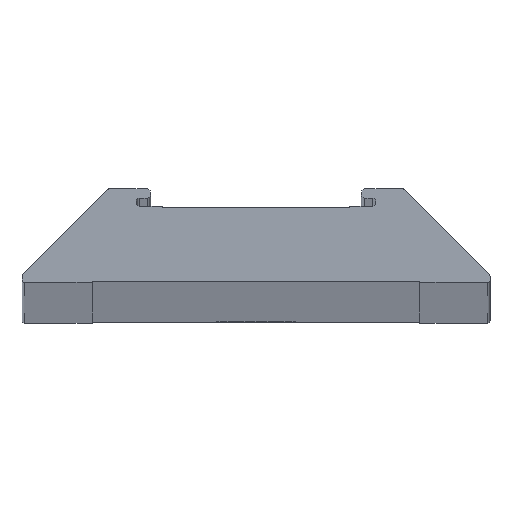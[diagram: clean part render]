
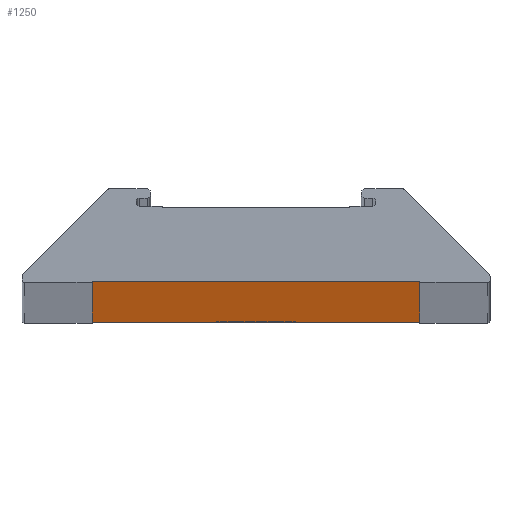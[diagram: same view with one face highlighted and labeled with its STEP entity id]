
A CAD part, top view. The second image highlights one B-rep face of the part: STEP entity #1250.
In plain terms, the highlighted planar face has unit normal (0, -1, 0).
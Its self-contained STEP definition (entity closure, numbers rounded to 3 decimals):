
#7 = EDGE_CURVE ( 'NONE', #847, #638, #110, .T. ) ;
#21 = CARTESIAN_POINT ( 'NONE',  ( 3., 0.05, 1000. ) ) ;
#30 = DIRECTION ( 'NONE',  ( 0., 1., 0. ) ) ;
#110 = LINE ( 'NONE', #170, #1263 ) ;
#170 = CARTESIAN_POINT ( 'NONE',  ( 17., 0.05, 1000. ) ) ;
#241 = FACE_BOUND ( 'NONE', #968, .T. ) ;
#324 = CARTESIAN_POINT ( 'NONE',  ( 3., 0.05, 1000. ) ) ;
#339 = VERTEX_POINT ( 'NONE', #612 ) ;
#375 = ORIENTED_EDGE ( 'NONE', *, *, #1247, .T. ) ;
#417 = VERTEX_POINT ( 'NONE', #1317 ) ;
#446 = DIRECTION ( 'NONE',  ( 1., 0., 0. ) ) ;
#449 = AXIS2_PLACEMENT_3D ( 'NONE', #592, #1359, #710 ) ;
#457 = VERTEX_POINT ( 'NONE', #324 ) ;
#468 = CARTESIAN_POINT ( 'NONE',  ( 10., 0.05, 20. ) ) ;
#469 = EDGE_CURVE ( 'NONE', #457, #847, #1032, .T. ) ;
#483 = CARTESIAN_POINT ( 'NONE',  ( 17., 0.05, 0. ) ) ;
#484 = ORIENTED_EDGE ( 'NONE', *, *, #597, .T. ) ;
#490 = LINE ( 'NONE', #21, #524 ) ;
#524 = VECTOR ( 'NONE', #698, 1000. ) ;
#565 = EDGE_CURVE ( 'NONE', #339, #417, #1431, .T. ) ;
#577 = DIRECTION ( 'NONE',  ( -1., 0., 0. ) ) ;
#592 = CARTESIAN_POINT ( 'NONE',  ( 10., 0.05, 20. ) ) ;
#597 = EDGE_CURVE ( 'NONE', #457, #1046, #490, .T. ) ;
#612 = CARTESIAN_POINT ( 'NONE',  ( 10., 0.05, 21.7 ) ) ;
#638 = VERTEX_POINT ( 'NONE', #483 ) ;
#640 = ORIENTED_EDGE ( 'NONE', *, *, #469, .F. ) ;
#663 = DIRECTION ( 'NONE',  ( 1., 0., 0. ) ) ;
#675 = AXIS2_PLACEMENT_3D ( 'NONE', #1152, #30, #831 ) ;
#698 = DIRECTION ( 'NONE',  ( 0., 0., -1. ) ) ;
#702 = ORIENTED_EDGE ( 'NONE', *, *, #1018, .T. ) ;
#710 = DIRECTION ( 'NONE',  ( -1., 0., 0. ) ) ;
#767 = AXIS2_PLACEMENT_3D ( 'NONE', #468, #1242, #577 ) ;
#782 = CIRCLE ( 'NONE', #449, 1.7 ) ;
#803 = DIRECTION ( 'NONE',  ( 0., 0., -1. ) ) ;
#831 = DIRECTION ( 'NONE',  ( -1., 0., 0. ) ) ;
#847 = VERTEX_POINT ( 'NONE', #1088 ) ;
#903 = LINE ( 'NONE', #1213, #1160 ) ;
#907 = EDGE_LOOP ( 'NONE', ( #702, #1028, #640, #484 ) ) ;
#968 = EDGE_LOOP ( 'NONE', ( #1022, #375 ) ) ;
#1018 = EDGE_CURVE ( 'NONE', #1046, #638, #903, .T. ) ;
#1022 = ORIENTED_EDGE ( 'NONE', *, *, #565, .T. ) ;
#1028 = ORIENTED_EDGE ( 'NONE', *, *, #7, .F. ) ;
#1032 = LINE ( 'NONE', #1119, #1076 ) ;
#1039 = PLANE ( 'NONE',  #675 ) ;
#1046 = VERTEX_POINT ( 'NONE', #1324 ) ;
#1076 = VECTOR ( 'NONE', #446, 1000. ) ;
#1088 = CARTESIAN_POINT ( 'NONE',  ( 17., 0.05, 1000. ) ) ;
#1119 = CARTESIAN_POINT ( 'NONE',  ( 17., 0.05, 1000. ) ) ;
#1152 = CARTESIAN_POINT ( 'NONE',  ( 17., 0.05, 1000. ) ) ;
#1160 = VECTOR ( 'NONE', #663, 1000. ) ;
#1213 = CARTESIAN_POINT ( 'NONE',  ( 17., 0.05, 0. ) ) ;
#1242 = DIRECTION ( 'NONE',  ( 0., 1., 0. ) ) ;
#1247 = EDGE_CURVE ( 'NONE', #417, #339, #782, .T. ) ;
#1250 = ADVANCED_FACE ( 'NONE', ( #241, #1356 ), #1039, .F. ) ;
#1263 = VECTOR ( 'NONE', #803, 1000. ) ;
#1317 = CARTESIAN_POINT ( 'NONE',  ( 10., 0.05, 18.3 ) ) ;
#1324 = CARTESIAN_POINT ( 'NONE',  ( 3., 0.05, 0. ) ) ;
#1356 = FACE_OUTER_BOUND ( 'NONE', #907, .T. ) ;
#1359 = DIRECTION ( 'NONE',  ( 0., 1., 0. ) ) ;
#1431 = CIRCLE ( 'NONE', #767, 1.7 ) ;
